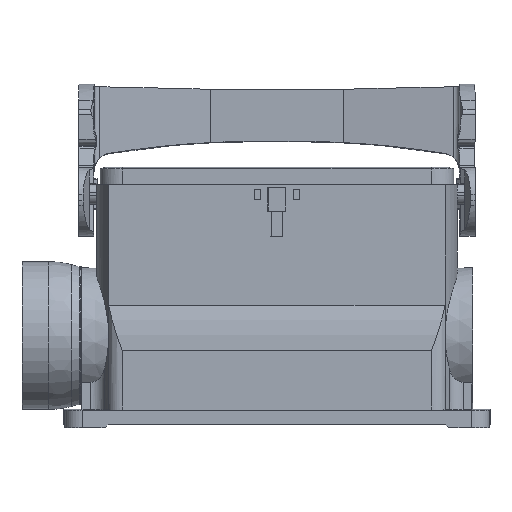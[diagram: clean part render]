
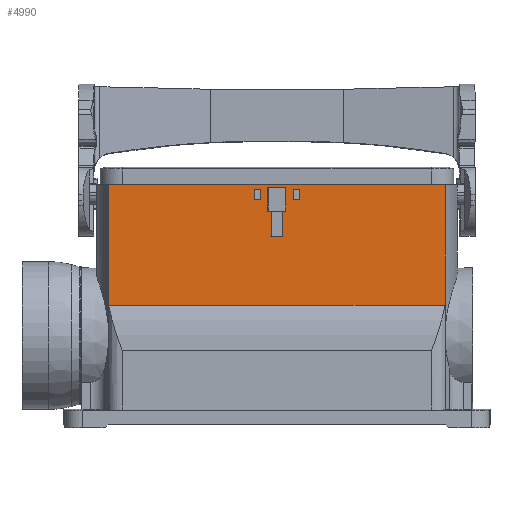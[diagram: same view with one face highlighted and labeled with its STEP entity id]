
A CAD part, front view. The second image highlights one B-rep face of the part: STEP entity #4990.
In plain terms, the highlighted planar face has unit normal (0, -1, 0).
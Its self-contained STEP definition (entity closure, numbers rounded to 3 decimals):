
#4990=ADVANCED_FACE('',(#6053,#6054,#6055,#6056),#5635,.T.);
#5635=PLANE('',#17887);
#6053=FACE_BOUND('',#6239,.T.);
#6054=FACE_BOUND('',#6240,.T.);
#6055=FACE_BOUND('',#6241,.T.);
#6056=FACE_BOUND('',#6242,.T.);
#6239=EDGE_LOOP('',(#7130,#7131,#7132,#7133));
#6240=EDGE_LOOP('',(#7134,#7135,#7136,#7137));
#6241=EDGE_LOOP('',(#7138,#7139,#7140,#7141,#7142,#7143,#7144,#7145));
#6242=EDGE_LOOP('',(#7146,#7147,#7148,#7149));
#7130=ORIENTED_EDGE('',*,*,#11776,.F.);
#7131=ORIENTED_EDGE('',*,*,#11777,.F.);
#7132=ORIENTED_EDGE('',*,*,#11778,.F.);
#7133=ORIENTED_EDGE('',*,*,#11779,.F.);
#7134=ORIENTED_EDGE('',*,*,#11780,.F.);
#7135=ORIENTED_EDGE('',*,*,#11781,.T.);
#7136=ORIENTED_EDGE('',*,*,#11782,.T.);
#7137=ORIENTED_EDGE('',*,*,#11783,.T.);
#7138=ORIENTED_EDGE('',*,*,#11784,.T.);
#7139=ORIENTED_EDGE('',*,*,#11785,.T.);
#7140=ORIENTED_EDGE('',*,*,#11786,.T.);
#7141=ORIENTED_EDGE('',*,*,#11787,.T.);
#7142=ORIENTED_EDGE('',*,*,#11788,.T.);
#7143=ORIENTED_EDGE('',*,*,#11789,.T.);
#7144=ORIENTED_EDGE('',*,*,#11790,.T.);
#7145=ORIENTED_EDGE('',*,*,#11791,.T.);
#7146=ORIENTED_EDGE('',*,*,#11792,.F.);
#7147=ORIENTED_EDGE('',*,*,#11793,.F.);
#7148=ORIENTED_EDGE('',*,*,#11794,.F.);
#7149=ORIENTED_EDGE('',*,*,#11795,.F.);
#10587=VERTEX_POINT('',#23127);
#10588=VERTEX_POINT('',#23128);
#10589=VERTEX_POINT('',#23130);
#10590=VERTEX_POINT('',#23132);
#10591=VERTEX_POINT('',#23135);
#10592=VERTEX_POINT('',#23136);
#10593=VERTEX_POINT('',#23138);
#10594=VERTEX_POINT('',#23140);
#10595=VERTEX_POINT('',#23143);
#10596=VERTEX_POINT('',#23144);
#10597=VERTEX_POINT('',#23146);
#10598=VERTEX_POINT('',#23148);
#10599=VERTEX_POINT('',#23150);
#10600=VERTEX_POINT('',#23152);
#10601=VERTEX_POINT('',#23154);
#10602=VERTEX_POINT('',#23156);
#10603=VERTEX_POINT('',#23159);
#10604=VERTEX_POINT('',#23160);
#10605=VERTEX_POINT('',#23162);
#10606=VERTEX_POINT('',#23164);
#11776=EDGE_CURVE('',#10587,#10588,#14651,.T.);
#11777=EDGE_CURVE('',#10589,#10587,#14652,.T.);
#11778=EDGE_CURVE('',#10590,#10589,#14653,.T.);
#11779=EDGE_CURVE('',#10588,#10590,#14654,.T.);
#11780=EDGE_CURVE('',#10591,#10592,#14655,.T.);
#11781=EDGE_CURVE('',#10591,#10593,#14656,.T.);
#11782=EDGE_CURVE('',#10593,#10594,#14657,.T.);
#11783=EDGE_CURVE('',#10594,#10592,#14658,.T.);
#11784=EDGE_CURVE('',#10595,#10596,#14659,.T.);
#11785=EDGE_CURVE('',#10596,#10597,#14660,.T.);
#11786=EDGE_CURVE('',#10597,#10598,#14661,.T.);
#11787=EDGE_CURVE('',#10598,#10599,#14662,.T.);
#11788=EDGE_CURVE('',#10599,#10600,#14663,.T.);
#11789=EDGE_CURVE('',#10600,#10601,#14664,.T.);
#11790=EDGE_CURVE('',#10601,#10602,#14665,.T.);
#11791=EDGE_CURVE('',#10602,#10595,#14666,.T.);
#11792=EDGE_CURVE('',#10603,#10604,#14667,.T.);
#11793=EDGE_CURVE('',#10605,#10603,#14668,.T.);
#11794=EDGE_CURVE('',#10606,#10605,#14669,.T.);
#11795=EDGE_CURVE('',#10604,#10606,#14670,.T.);
#14651=LINE('',#23126,#15860);
#14652=LINE('',#23129,#15861);
#14653=LINE('',#23131,#15862);
#14654=LINE('',#23133,#15863);
#14655=LINE('',#23134,#15864);
#14656=LINE('',#23137,#15865);
#14657=LINE('',#23139,#15866);
#14658=LINE('',#23141,#15867);
#14659=LINE('',#23142,#15868);
#14660=LINE('',#23145,#15869);
#14661=LINE('',#23147,#15870);
#14662=LINE('',#23149,#15871);
#14663=LINE('',#23151,#15872);
#14664=LINE('',#23153,#15873);
#14665=LINE('',#23155,#15874);
#14666=LINE('',#23157,#15875);
#14667=LINE('',#23158,#15876);
#14668=LINE('',#23161,#15877);
#14669=LINE('',#23163,#15878);
#14670=LINE('',#23165,#15879);
#15860=VECTOR('',#19349,1.);
#15861=VECTOR('',#19350,1.);
#15862=VECTOR('',#19351,1.);
#15863=VECTOR('',#19352,1.);
#15864=VECTOR('',#19353,1.);
#15865=VECTOR('',#19354,1.);
#15866=VECTOR('',#19355,1.);
#15867=VECTOR('',#19356,1.);
#15868=VECTOR('',#19357,1.);
#15869=VECTOR('',#19358,1.);
#15870=VECTOR('',#19359,1.);
#15871=VECTOR('',#19360,1.);
#15872=VECTOR('',#19361,1.);
#15873=VECTOR('',#19362,1.);
#15874=VECTOR('',#19363,1.);
#15875=VECTOR('',#19364,1.);
#15876=VECTOR('',#19365,1.);
#15877=VECTOR('',#19366,1.);
#15878=VECTOR('',#19367,1.);
#15879=VECTOR('',#19368,1.);
#17887=AXIS2_PLACEMENT_3D('',#23166,#19369,#19370);
#19349=DIRECTION('',(0.,0.,1.));
#19350=DIRECTION('',(1.,0.,0.));
#19351=DIRECTION('',(0.,0.,-1.));
#19352=DIRECTION('',(-1.,0.,0.));
#19353=DIRECTION('',(-1.,0.,0.));
#19354=DIRECTION('',(0.,0.,1.));
#19355=DIRECTION('',(-1.,0.,0.));
#19356=DIRECTION('',(0.,0.,-1.));
#19357=DIRECTION('',(0.017,0.,-1.));
#19358=DIRECTION('',(-1.,0.,0.));
#19359=DIRECTION('',(0.,0.,-1.));
#19360=DIRECTION('',(-1.,0.,0.));
#19361=DIRECTION('',(0.,0.,1.));
#19362=DIRECTION('',(-1.,0.,0.));
#19363=DIRECTION('',(0.017,0.,1.));
#19364=DIRECTION('',(1.,0.,0.));
#19365=DIRECTION('',(1.,0.,0.));
#19366=DIRECTION('',(0.,0.,-1.));
#19367=DIRECTION('',(-1.,0.,0.));
#19368=DIRECTION('',(0.,0.,1.));
#19369=DIRECTION('',(0.,-1.,0.));
#19370=DIRECTION('',(-1.,0.,0.));
#23126=CARTESIAN_POINT('',(-5.5,-22.5,5.7));
#23127=CARTESIAN_POINT('',(-5.5,-22.5,0.6));
#23128=CARTESIAN_POINT('',(-5.5,-22.5,4.));
#23129=CARTESIAN_POINT('',(-7.7,-22.5,0.6));
#23130=CARTESIAN_POINT('',(-7.7,-22.5,0.6));
#23131=CARTESIAN_POINT('',(-7.7,-22.5,4.));
#23132=CARTESIAN_POINT('',(-7.7,-22.5,4.));
#23133=CARTESIAN_POINT('',(-5.5,-22.5,4.));
#23134=CARTESIAN_POINT('',(56.85,-22.5,-35.001));
#23135=CARTESIAN_POINT('',(56.85,-22.5,-35.001));
#23136=CARTESIAN_POINT('',(-56.85,-22.5,-35.001));
#23137=CARTESIAN_POINT('',(56.85,-22.5,5.7));
#23138=CARTESIAN_POINT('',(56.85,-22.5,5.7));
#23139=CARTESIAN_POINT('',(0.,-22.5,5.7));
#23140=CARTESIAN_POINT('',(-56.85,-22.5,5.7));
#23141=CARTESIAN_POINT('',(-56.85,-22.5,5.7));
#23142=CARTESIAN_POINT('',(2.047,-22.5,-5.964));
#23143=CARTESIAN_POINT('',(1.86,-22.5,4.75));
#23144=CARTESIAN_POINT('',(2.001,-22.5,-3.285));
#23145=CARTESIAN_POINT('',(0.,-22.5,-3.285));
#23146=CARTESIAN_POINT('',(2.,-22.5,-3.285));
#23147=CARTESIAN_POINT('',(2.,-22.5,-6.));
#23148=CARTESIAN_POINT('',(2.,-22.5,-11.95));
#23149=CARTESIAN_POINT('',(0.,-22.5,-11.95));
#23150=CARTESIAN_POINT('',(-2.,-22.5,-11.95));
#23151=CARTESIAN_POINT('',(-2.,-22.5,-6.));
#23152=CARTESIAN_POINT('',(-2.,-22.5,-3.285));
#23153=CARTESIAN_POINT('',(0.,-22.5,-3.285));
#23154=CARTESIAN_POINT('',(-2.001,-22.5,-3.285));
#23155=CARTESIAN_POINT('',(-2.047,-22.5,-5.964));
#23156=CARTESIAN_POINT('',(-1.86,-22.5,4.75));
#23157=CARTESIAN_POINT('',(-2.,-22.5,4.75));
#23158=CARTESIAN_POINT('',(5.5,-22.5,0.6));
#23159=CARTESIAN_POINT('',(5.5,-22.5,0.6));
#23160=CARTESIAN_POINT('',(7.7,-22.5,0.6));
#23161=CARTESIAN_POINT('',(5.5,-22.5,4.));
#23162=CARTESIAN_POINT('',(5.5,-22.5,4.));
#23163=CARTESIAN_POINT('',(7.7,-22.5,4.));
#23164=CARTESIAN_POINT('',(7.7,-22.5,4.));
#23165=CARTESIAN_POINT('',(7.7,-22.5,0.6));
#23166=CARTESIAN_POINT('',(0.,-22.5,5.7));
